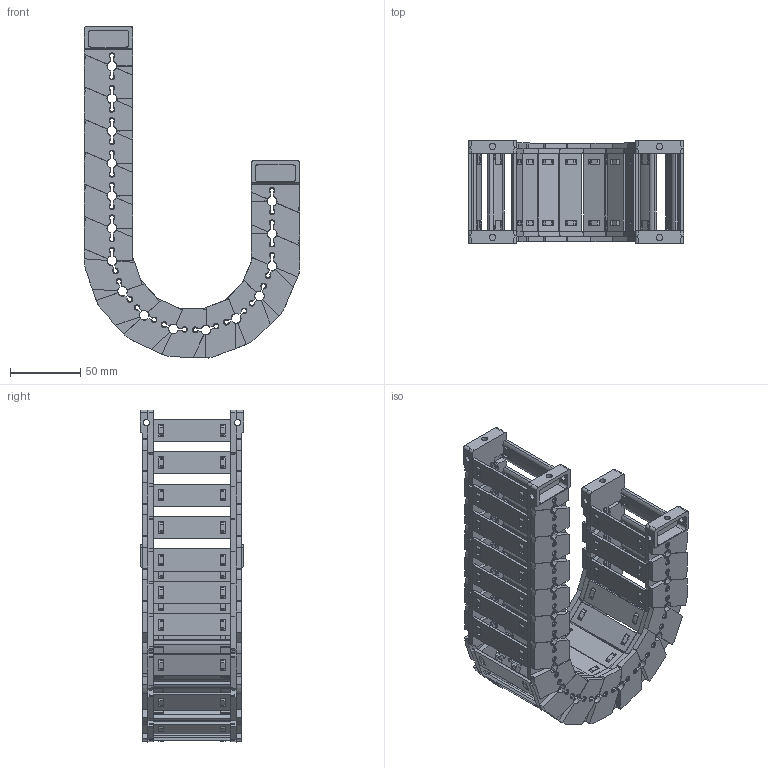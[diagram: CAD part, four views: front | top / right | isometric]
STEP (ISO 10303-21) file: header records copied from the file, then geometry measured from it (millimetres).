
FILE_DESCRIPTION((''),'2;1');
FILE_NAME('JY-28X55-R55_ASM','2026-03-26T08:15:52',('admin'),(''),'CREO PARAMETRIC BY PTC INC, 2021023','CREO PARAMETRIC BY PTC INC, 2021023','');
FILE_SCHEMA(('CONFIG_CONTROL_DESIGN'));
Length unit declared in the file: millimetre
Products named in the file (11): 28XL-L; 25-35XL-YP; 28XL-R; ASM0001_ASM; 28-LTT-A-L; 28-LTT-A-R; 28XL-LTT-A_ASM; 28-LTT-B-L; 28-LTT-B-R; 28XL-LTT-B_ASM; JY-28X55-R55_ASM
Assembly tree (29 placements, depth 3):
  JY-28X55-R55_ASM
    ASM0001_ASM  x15
      28XL-L
      25-35XL-YP
      28XL-R
    28XL-LTT-A_ASM
      28-LTT-A-L
      25-35XL-YP  x2
      28-LTT-A-R
    28XL-LTT-B_ASM
      28-LTT-B-L
      25-35XL-YP  x2
      28-LTT-B-R
Bounding box: 153.11 x 73.5 x 235.62 mm (x, y, z)
Volume: 266174.5 mm3; surface area: 194343.7 mm2
Topology: 68 solids, 68 shells, 5486 faces, 16300 edges, 10882 vertices
Faces by surface type: plane 3597, cone 973, cylinder 796, bspline 120
Entity records: 29071 total; most frequent: CARTESIAN_POINT 9487, ORIENTED_EDGE 4352, DIRECTION 3649, EDGE_CURVE 2176, VERTEX_POINT 1454, VECTOR 1365, LINE 1365, AXIS2_PLACEMENT_3D 1142
